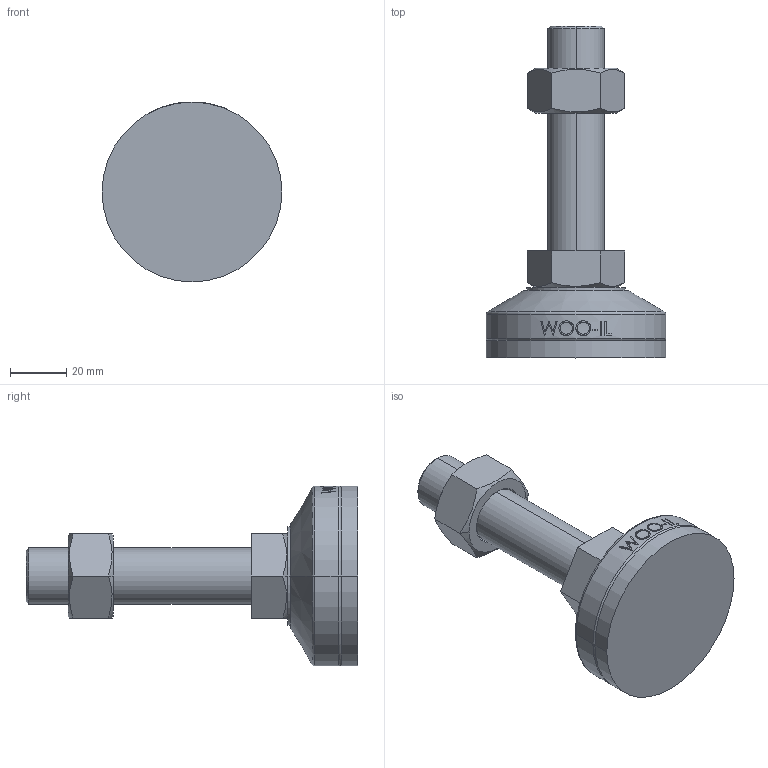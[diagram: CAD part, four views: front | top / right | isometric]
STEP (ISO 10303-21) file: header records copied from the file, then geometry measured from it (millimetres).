
FILE_DESCRIPTION (( 'STEP AP214' ), '1' );
FILE_NAME ('MFR64-M20-80.step', '2021-01-13T05:39:07', ( '' ), ( '' ), 'SwSTEP 2.0', 'SolidWorks 2019', '' );
FILE_SCHEMA (( 'AUTOMOTIVE_DESIGN' ));
Length unit declared in the file: millimetre
Products named in the file (2): MFR64-M20-80
Bounding box: 64 x 118 x 64 mm (x, y, z)
Volume: 111232.2 mm3; surface area: 21678.3 mm2
Topology: 3 solids, 3 shells, 102 faces, 235 edges, 150 vertices
Faces by surface type: plane 48, cylinder 18, bspline 16, cone 14, torus 6
Entity records: 4386 total; most frequent: CARTESIAN_POINT 2131, ORIENTED_EDGE 470, DIRECTION 415, EDGE_CURVE 235, AXIS2_PLACEMENT_3D 158, VERTEX_POINT 150, EDGE_LOOP 115, ADVANCED_FACE 102
